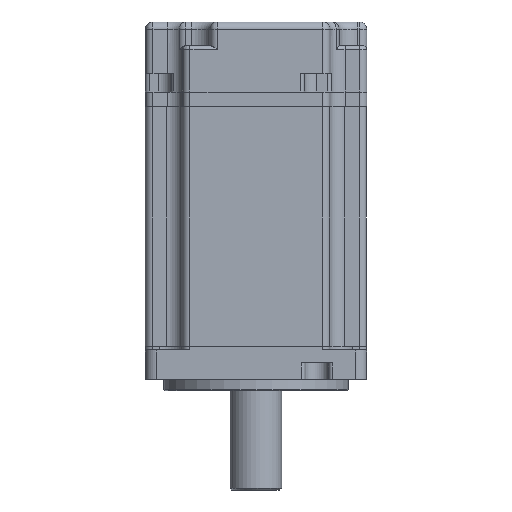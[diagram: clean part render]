
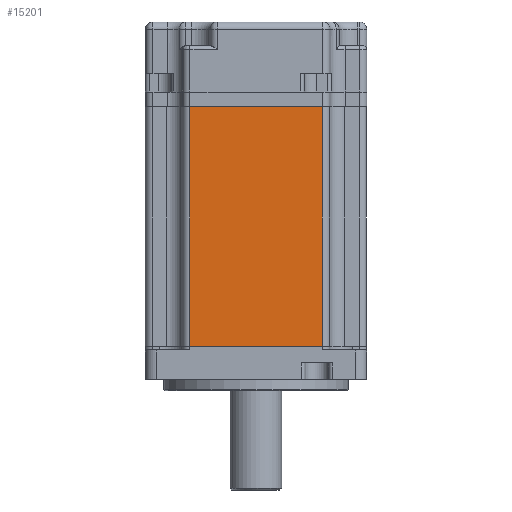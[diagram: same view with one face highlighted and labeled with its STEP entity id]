
A CAD part, front view. The second image highlights one B-rep face of the part: STEP entity #15201.
In plain terms, the highlighted planar face has unit normal (0, -1, 0) as drawn and (1, 0, 0) by its records, which use the part's own axes.
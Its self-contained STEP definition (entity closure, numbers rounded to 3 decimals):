
#14521=DIRECTION('',(0.,0.,1.));
#14522=VECTOR('',#14521,65.);
#14523=CARTESIAN_POINT('',(30.,18.,0.));
#14524=LINE('',#14523,#14522);
#14529=DIRECTION('',(0.,-1.,0.));
#14530=VECTOR('',#14529,36.);
#14531=CARTESIAN_POINT('',(30.,18.,0.));
#14532=LINE('',#14531,#14530);
#14537=DIRECTION('',(0.,0.,-1.));
#14538=VECTOR('',#14537,65.);
#14539=CARTESIAN_POINT('',(30.,-18.,65.));
#14540=LINE('',#14539,#14538);
#14646=DIRECTION('',(0.,-1.,0.));
#14647=VECTOR('',#14646,36.);
#14648=CARTESIAN_POINT('',(30.,18.,65.));
#14649=LINE('',#14648,#14647);
#14781=CARTESIAN_POINT('',(30.,-18.,0.));
#14782=VERTEX_POINT('',#14781);
#14783=CARTESIAN_POINT('',(30.,18.,0.));
#14784=VERTEX_POINT('',#14783);
#14869=CARTESIAN_POINT('',(30.,18.,65.));
#14870=VERTEX_POINT('',#14869);
#14871=CARTESIAN_POINT('',(30.,-18.,65.));
#14872=VERTEX_POINT('',#14871);
#15188=CARTESIAN_POINT('',(30.,-20.,0.));
#15189=DIRECTION('',(1.,0.,0.));
#15190=DIRECTION('',(0.,1.,0.));
#15191=AXIS2_PLACEMENT_3D('',#15188,#15189,#15190);
#15192=PLANE('',#15191);
#15193=ORIENTED_EDGE('',*,*,#15180,.F.);
#15194=ORIENTED_EDGE('',*,*,#14906,.T.);
#15196=ORIENTED_EDGE('',*,*,#15195,.F.);
#15198=ORIENTED_EDGE('',*,*,#15197,.F.);
#15199=EDGE_LOOP('',(#15193,#15194,#15196,#15198));
#15200=FACE_OUTER_BOUND('',#15199,.F.);
#14906=EDGE_CURVE('',#14784,#14782,#14532,.T.);
#15180=EDGE_CURVE('',#14784,#14870,#14524,.T.);
#15195=EDGE_CURVE('',#14872,#14782,#14540,.T.);
#15197=EDGE_CURVE('',#14870,#14872,#14649,.T.);
#15201=ADVANCED_FACE('',(#15200),#15192,.T.);
